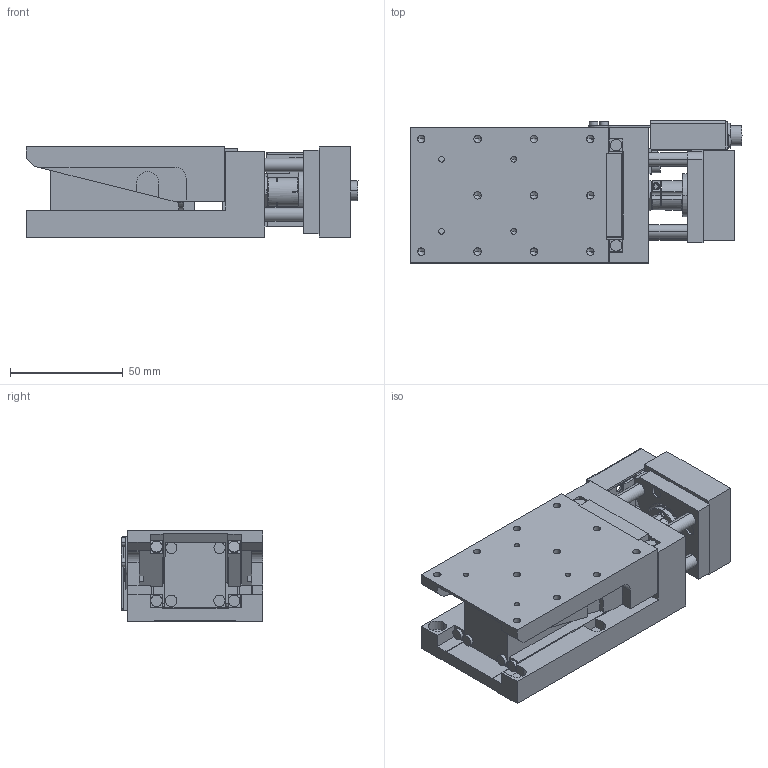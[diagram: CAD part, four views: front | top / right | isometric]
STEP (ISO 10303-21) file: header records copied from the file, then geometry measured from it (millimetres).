
FILE_DESCRIPTION(('STEP AP203'),'1');
FILE_NAME('C:/3D-Trans/3D_KHC06004V-S40+161010.step','2016-10-11T05:45:44',(' '),(' '),'Spatial InterOp 3D',' ',' ');
FILE_SCHEMA(('CONFIG_CONTROL_DESIGN'));
Length unit declared in the file: millimetre
Products named in the file (4): 1; 2; 3; 4
Bounding box: 147.3 x 63 x 40 mm (x, y, z)
Volume: 212511.9 mm3; surface area: 82152.4 mm2
Topology: 4 solids, 15 shells, 1223 faces, 3074 edges, 1962 vertices
Faces by surface type: cylinder 518, plane 494, cone 177, torus 30, sphere 4
Entity records: 37751 total; most frequent: CARTESIAN_POINT 7337, DIRECTION 6652, ORIENTED_EDGE 6056, EDGE_CURVE 3028, AXIS2_PLACEMENT_3D 2508, VERTEX_POINT 1958, LINE 1636, VECTOR 1636
